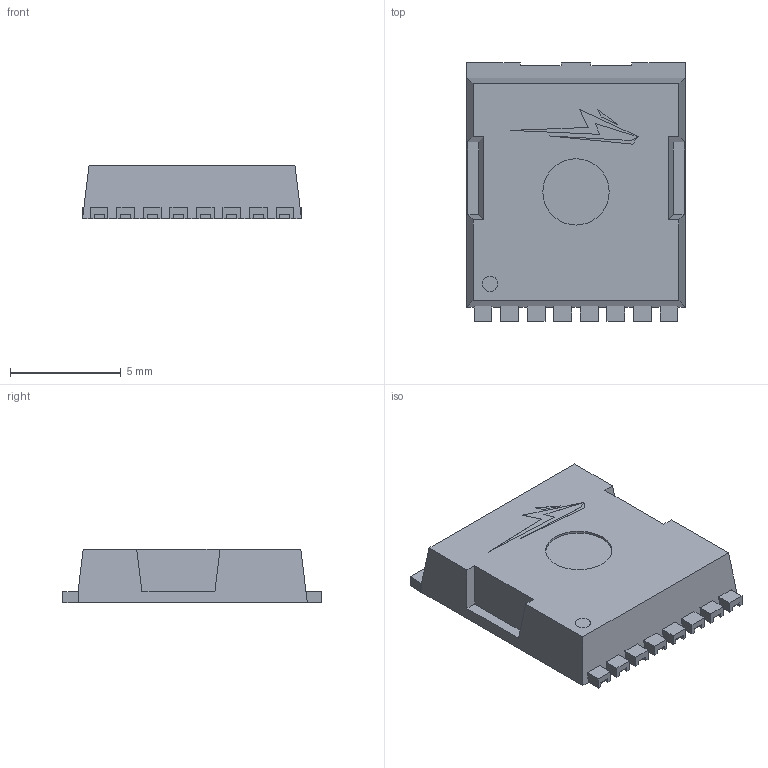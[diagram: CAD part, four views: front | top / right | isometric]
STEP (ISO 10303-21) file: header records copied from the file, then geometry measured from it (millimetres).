
FILE_DESCRIPTION(/* description */ (''),/* implementation_level */ '2;1');
FILE_NAME(/* name */ 'D:\Upverter 3D models (local)\Wolfspeed\May 2023\C3M0045065L\C3M0045065L.stp',/* time_stamp */ '2023-05-16T08:59:59-04:00',/* author */ ('rabri'),/* organization */ (''),/* preprocessor_version */ 'ST-DEVELOPER v18',/* originating_system */ 'Autodesk Inventor 2020',/* authorisation */ '');
FILE_SCHEMA (('AUTOMOTIVE_DESIGN { 1 0 10303 214 3 1 1 }'));
Length unit declared in the file: millimetre
Products named in the file (4): C3M0045065L; body; t; logo
Assembly tree (3 placements, depth 2):
  C3M0045065L
    body
    t
    logo
Bounding box: 9.9 x 11.68 x 2.4 mm (x, y, z)
Volume: 231.4 mm3; surface area: 484.3 mm2
Topology: 9 solids, 9 shells, 165 faces, 442 edges, 296 vertices
Faces by surface type: plane 163, cylinder 2
Full cylindrical faces by diameter (mm): 0.7 x1, 3 x1
Entity records: 5220 total; most frequent: CARTESIAN_POINT 910, ORIENTED_EDGE 884, DIRECTION 794, EDGE_CURVE 442, LINE 434, VECTOR 434, VERTEX_POINT 296, AXIS2_PLACEMENT_3D 180
